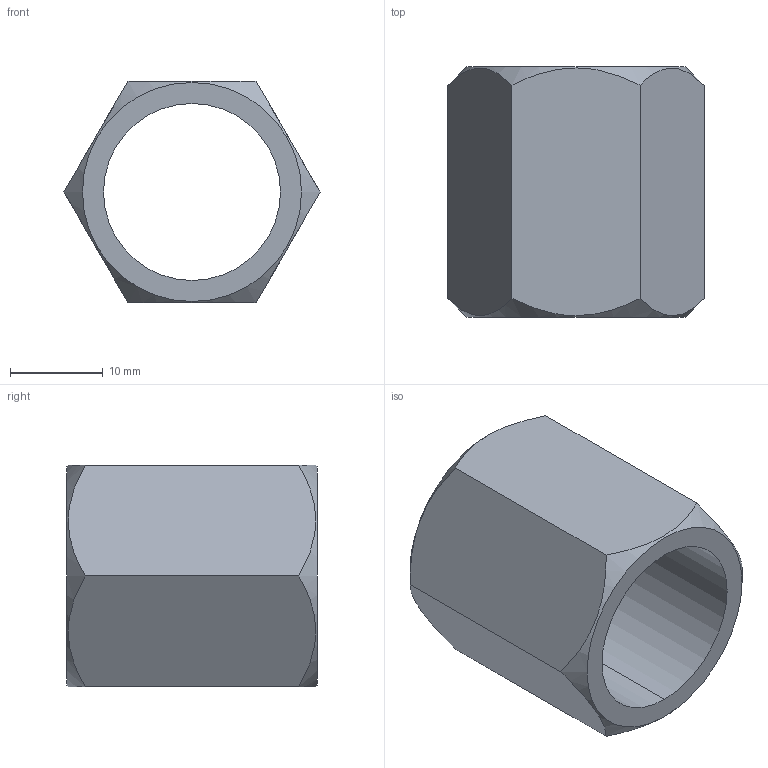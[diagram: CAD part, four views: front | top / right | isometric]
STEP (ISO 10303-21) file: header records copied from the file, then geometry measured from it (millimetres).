
FILE_DESCRIPTION (( 'STEP AP203' ), '1' );
FILE_NAME ('TTY-YD04-04G.STEP', '2024-01-19T03:09:14', ( 'E.mc' ), ( 'E.mc' ), 'SwSTEP 2.0', 'SolidWorks 2017', '' );
FILE_SCHEMA (( 'CONFIG_CONTROL_DESIGN' ));
Length unit declared in the file: millimetre
Products named in the file (1): TTY-YD04-04G
Bounding box: 27.64 x 27.04 x 23.94 mm (x, y, z)
Volume: 5606.6 mm3; surface area: 4202.1 mm2
Topology: 1 solids, 1 shells, 14 faces, 36 edges, 24 vertices
Faces by surface type: plane 8, cone 4, cylinder 2
Entity records: 637 total; most frequent: CARTESIAN_POINT 235, ORIENTED_EDGE 72, DIRECTION 58, EDGE_CURVE 36, VERTEX_POINT 24, AXIS2_PLACEMENT_3D 23, EDGE_LOOP 16, B_SPLINE_CURVE_WITH_KNOTS 16
